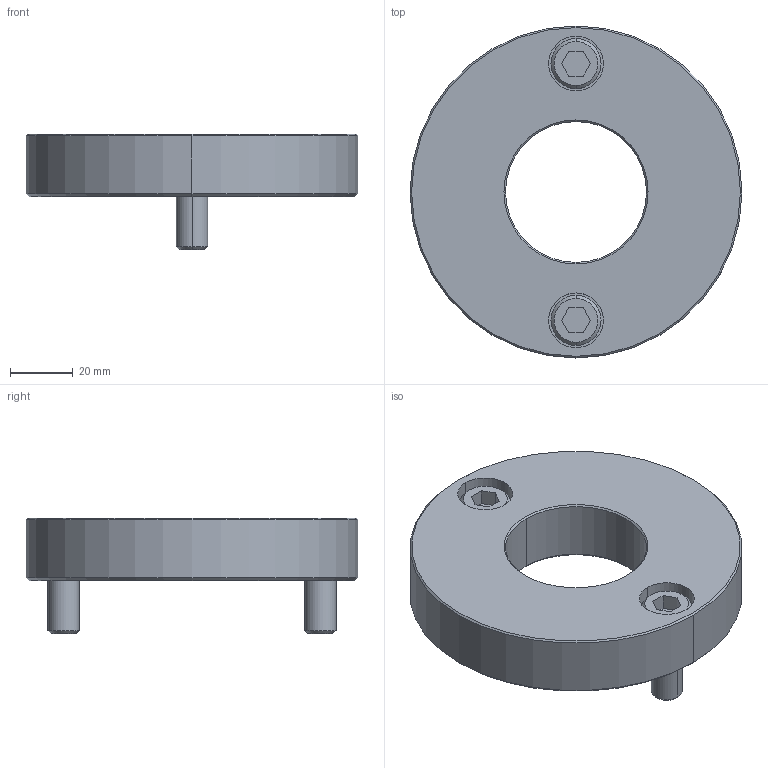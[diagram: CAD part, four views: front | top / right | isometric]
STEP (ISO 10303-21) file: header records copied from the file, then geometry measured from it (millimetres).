
FILE_DESCRIPTION((''),'2;1');
FILE_NAME('','2010-08-30T17:28:48+09:00',('misumi'),(''),'M/STEP i/f 1R2-14','CADmeister v5.1','');
FILE_SCHEMA(('AUTOMOTIVE_DESIGN'));
Length unit declared in the file: millimetre
Products named in the file (1): KEB40-20-Y
Bounding box: 106 x 106 x 37 mm (x, y, z)
Volume: 144412.8 mm3; surface area: 28588.2 mm2
Topology: 3 solids, 3 shells, 60 faces, 128 edges, 80 vertices
Faces by surface type: plane 24, cylinder 20, cone 16
Entity records: 1742 total; most frequent: DIRECTION 306, CARTESIAN_POINT 269, ORIENTED_EDGE 256, EDGE_CURVE 128, AXIS2_PLACEMENT_3D 117, VERTEX_POINT 80, LINE 72, VECTOR 72
